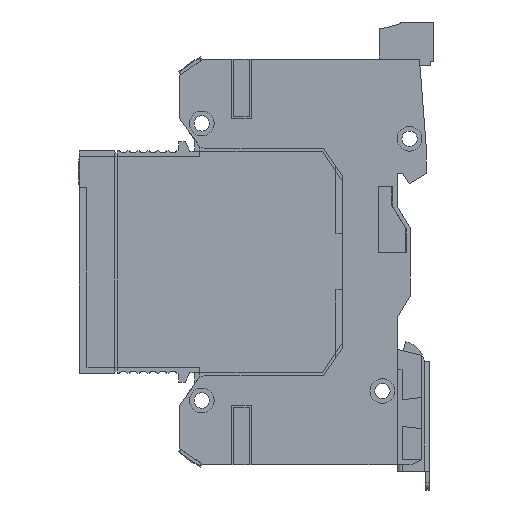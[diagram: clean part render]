
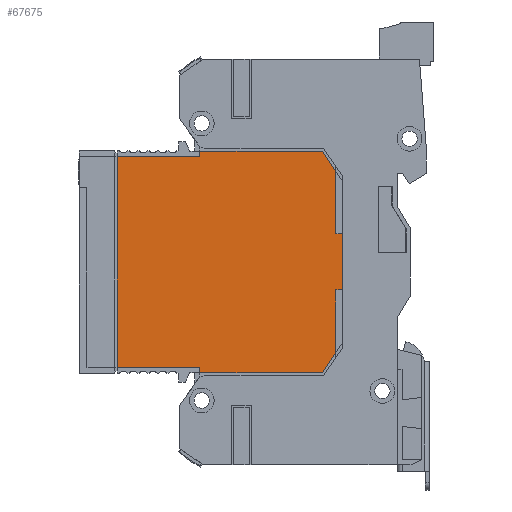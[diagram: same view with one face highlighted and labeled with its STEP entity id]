
A CAD part, left-side view. The second image highlights one B-rep face of the part: STEP entity #67675.
In plain terms, the highlighted planar face has unit normal (-1, 0, 0) as drawn and (0, -1, 0) by its records, which use the part's own axes.
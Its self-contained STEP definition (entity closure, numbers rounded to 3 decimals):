
#263 = ORIENTED_EDGE ( 'NONE', *, *, #48214, .F. ) ;
#2017 = VERTEX_POINT ( 'NONE', #77908 ) ;
#2585 = EDGE_CURVE ( 'NONE', #61118, #42629, #26940, .T. ) ;
#3054 = EDGE_CURVE ( 'NONE', #52305, #32894, #80181, .T. ) ;
#4084 = ORIENTED_EDGE ( 'NONE', *, *, #46512, .F. ) ;
#5826 = DIRECTION ( 'NONE',  ( -1., 0., 0. ) ) ;
#7706 = DIRECTION ( 'NONE',  ( 0.835, 0., 0.55 ) ) ;
#8320 = VECTOR ( 'NONE', #46128, 1000. ) ;
#8933 = CARTESIAN_POINT ( 'NONE',  ( -5.65, 0., 25.15 ) ) ;
#9533 = LINE ( 'NONE', #58294, #46442 ) ;
#10336 = LINE ( 'NONE', #85202, #53744 ) ;
#10926 = VERTEX_POINT ( 'NONE', #45470 ) ;
#10997 = ORIENTED_EDGE ( 'NONE', *, *, #18345, .F. ) ;
#11990 = LINE ( 'NONE', #59391, #19664 ) ;
#12439 = DIRECTION ( 'NONE',  ( 0., 0., -1. ) ) ;
#12572 = VECTOR ( 'NONE', #18372, 1000. ) ;
#13340 = PLANE ( 'NONE',  #34307 ) ;
#14206 = ORIENTED_EDGE ( 'NONE', *, *, #41085, .F. ) ;
#15141 = DIRECTION ( 'NONE',  ( 1., 0., 0. ) ) ;
#16474 = EDGE_CURVE ( 'NONE', #54849, #52305, #64208, .T. ) ;
#17368 = DIRECTION ( 'NONE',  ( 0., 0., 1. ) ) ;
#18193 = VERTEX_POINT ( 'NONE', #30015 ) ;
#18345 = EDGE_CURVE ( 'NONE', #58016, #18193, #83281, .T. ) ;
#18372 = DIRECTION ( 'NONE',  ( 0., 0., -1. ) ) ;
#19664 = VECTOR ( 'NONE', #25437, 1000. ) ;
#20395 = VECTOR ( 'NONE', #66801, 1000. ) ;
#20537 = CARTESIAN_POINT ( 'NONE',  ( -18.3, 0., 25.15 ) ) ;
#20780 = VECTOR ( 'NONE', #7706, 1000. ) ;
#22595 = DIRECTION ( 'NONE',  ( -1., 0., 0. ) ) ;
#22659 = CARTESIAN_POINT ( 'NONE',  ( -22.4, 0., -2.35 ) ) ;
#23200 = ORIENTED_EDGE ( 'NONE', *, *, #46187, .T. ) ;
#23721 = VECTOR ( 'NONE', #15141, 1000. ) ;
#24364 = CARTESIAN_POINT ( 'NONE',  ( 5.65, 0., 25.15 ) ) ;
#24399 = EDGE_CURVE ( 'NONE', #42524, #42629, #11990, .T. ) ;
#24430 = FACE_OUTER_BOUND ( 'NONE', #76996, .T. ) ;
#25437 = DIRECTION ( 'NONE',  ( 1., 0., 0. ) ) ;
#26940 = LINE ( 'NONE', #31892, #8320 ) ;
#27065 = ORIENTED_EDGE ( 'NONE', *, *, #24399, .T. ) ;
#27538 = LINE ( 'NONE', #75279, #42659 ) ;
#28568 = VERTEX_POINT ( 'NONE', #42438 ) ;
#29017 = CARTESIAN_POINT ( 'NONE',  ( -5.65, 0., 26.55 ) ) ;
#30015 = CARTESIAN_POINT ( 'NONE',  ( 21.3, 0., -19.05 ) ) ;
#31892 = CARTESIAN_POINT ( 'NONE',  ( -21.3, 0., -25.15 ) ) ;
#32894 = VERTEX_POINT ( 'NONE', #8933 ) ;
#33374 = VECTOR ( 'NONE', #22595, 1000. ) ;
#34295 = CARTESIAN_POINT ( 'NONE',  ( 0., 0., 0. ) ) ;
#34307 = AXIS2_PLACEMENT_3D ( 'NONE', #34295, #89901, #48228 ) ;
#35495 = CARTESIAN_POINT ( 'NONE',  ( 21.3, 0., -2.35 ) ) ;
#37006 = VECTOR ( 'NONE', #71191, 1000. ) ;
#38387 = CARTESIAN_POINT ( 'NONE',  ( 22.4, 0., 22.45 ) ) ;
#38399 = CARTESIAN_POINT ( 'NONE',  ( 22.4, 0., -2.35 ) ) ;
#38895 = CARTESIAN_POINT ( 'NONE',  ( -21.3, 0., 25.15 ) ) ;
#40036 = DIRECTION ( 'NONE',  ( 0.835, 0., -0.55 ) ) ;
#40636 = CARTESIAN_POINT ( 'NONE',  ( 21.3, 0., -25.15 ) ) ;
#41085 = EDGE_CURVE ( 'NONE', #45092, #2017, #81244, .T. ) ;
#42438 = CARTESIAN_POINT ( 'NONE',  ( -5.65, 0., 26.55 ) ) ;
#42524 = VERTEX_POINT ( 'NONE', #71491 ) ;
#42629 = VERTEX_POINT ( 'NONE', #51152 ) ;
#42640 = CARTESIAN_POINT ( 'NONE',  ( -22.4, 0., 22.45 ) ) ;
#42659 = VECTOR ( 'NONE', #40036, 1000. ) ;
#43322 = ORIENTED_EDGE ( 'NONE', *, *, #2585, .F. ) ;
#43959 = ORIENTED_EDGE ( 'NONE', *, *, #82764, .F. ) ;
#45092 = VERTEX_POINT ( 'NONE', #80240 ) ;
#45470 = CARTESIAN_POINT ( 'NONE',  ( 5.65, 0., 26.55 ) ) ;
#46128 = DIRECTION ( 'NONE',  ( 0., 0., 1. ) ) ;
#46187 = EDGE_CURVE ( 'NONE', #58016, #88678, #10336, .T. ) ;
#46442 = VECTOR ( 'NONE', #67639, 1000. ) ;
#46512 = EDGE_CURVE ( 'NONE', #18193, #61118, #56979, .T. ) ;
#47434 = EDGE_CURVE ( 'NONE', #2017, #55230, #27538, .T. ) ;
#48214 = EDGE_CURVE ( 'NONE', #42524, #54849, #48909, .T. ) ;
#48228 = DIRECTION ( 'NONE',  ( 0., 0., 1. ) ) ;
#48831 = ORIENTED_EDGE ( 'NONE', *, *, #57646, .T. ) ;
#48900 = CARTESIAN_POINT ( 'NONE',  ( 22.4, 0., -2.35 ) ) ;
#48909 = LINE ( 'NONE', #22659, #37006 ) ;
#51152 = CARTESIAN_POINT ( 'NONE',  ( -21.3, 0., -2.35 ) ) ;
#51435 = DIRECTION ( 'NONE',  ( 1., 0., 0. ) ) ;
#52305 = VERTEX_POINT ( 'NONE', #20537 ) ;
#53744 = VECTOR ( 'NONE', #51435, 1000. ) ;
#54849 = VERTEX_POINT ( 'NONE', #75225 ) ;
#55230 = VERTEX_POINT ( 'NONE', #38387 ) ;
#56209 = ORIENTED_EDGE ( 'NONE', *, *, #76780, .T. ) ;
#56979 = LINE ( 'NONE', #74172, #69955 ) ;
#57646 = EDGE_CURVE ( 'NONE', #28568, #32894, #9533, .T. ) ;
#58016 = VERTEX_POINT ( 'NONE', #35495 ) ;
#58294 = CARTESIAN_POINT ( 'NONE',  ( -5.65, 0., 25.15 ) ) ;
#59391 = CARTESIAN_POINT ( 'NONE',  ( -21.3, 0., -2.35 ) ) ;
#59451 = EDGE_CURVE ( 'NONE', #45092, #10926, #75423, .T. ) ;
#61118 = VERTEX_POINT ( 'NONE', #82735 ) ;
#64208 = LINE ( 'NONE', #42640, #20780 ) ;
#64537 = ORIENTED_EDGE ( 'NONE', *, *, #47434, .F. ) ;
#66801 = DIRECTION ( 'NONE',  ( 1., 0., 0. ) ) ;
#67639 = DIRECTION ( 'NONE',  ( 0., 0., -1. ) ) ;
#67675 = ADVANCED_FACE ( 'NONE', ( #24430 ), #13340, .F. ) ;
#69214 = LINE ( 'NONE', #29017, #33374 ) ;
#69860 = ORIENTED_EDGE ( 'NONE', *, *, #3054, .F. ) ;
#69955 = VECTOR ( 'NONE', #5826, 1000. ) ;
#70649 = CARTESIAN_POINT ( 'NONE',  ( -21.3, 0., 25.15 ) ) ;
#71191 = DIRECTION ( 'NONE',  ( 0., 0., 1. ) ) ;
#71491 = CARTESIAN_POINT ( 'NONE',  ( -22.4, 0., -2.35 ) ) ;
#74172 = CARTESIAN_POINT ( 'NONE',  ( -21.3, 0., -19.05 ) ) ;
#75225 = CARTESIAN_POINT ( 'NONE',  ( -22.4, 0., 22.45 ) ) ;
#75279 = CARTESIAN_POINT ( 'NONE',  ( 22.4, 0., 22.45 ) ) ;
#75423 = LINE ( 'NONE', #24364, #86326 ) ;
#76780 = EDGE_CURVE ( 'NONE', #10926, #28568, #69214, .T. ) ;
#76996 = EDGE_LOOP ( 'NONE', ( #43322, #4084, #10997, #23200, #43959, #64537, #14206, #88212, #56209, #48831, #69860, #89946, #263, #27065 ) ) ;
#77908 = CARTESIAN_POINT ( 'NONE',  ( 18.3, 0., 25.15 ) ) ;
#79974 = LINE ( 'NONE', #38399, #12572 ) ;
#80181 = LINE ( 'NONE', #70649, #23721 ) ;
#80240 = CARTESIAN_POINT ( 'NONE',  ( 5.65, 0., 25.15 ) ) ;
#81244 = LINE ( 'NONE', #38895, #20395 ) ;
#82735 = CARTESIAN_POINT ( 'NONE',  ( -21.3, 0., -19.05 ) ) ;
#82764 = EDGE_CURVE ( 'NONE', #55230, #88678, #79974, .T. ) ;
#83281 = LINE ( 'NONE', #40636, #85471 ) ;
#85202 = CARTESIAN_POINT ( 'NONE',  ( 21.3, 0., -2.35 ) ) ;
#85471 = VECTOR ( 'NONE', #12439, 1000. ) ;
#86326 = VECTOR ( 'NONE', #17368, 1000. ) ;
#88212 = ORIENTED_EDGE ( 'NONE', *, *, #59451, .T. ) ;
#88678 = VERTEX_POINT ( 'NONE', #48900 ) ;
#89901 = DIRECTION ( 'NONE',  ( 0., 1., 0. ) ) ;
#89946 = ORIENTED_EDGE ( 'NONE', *, *, #16474, .F. ) ;
